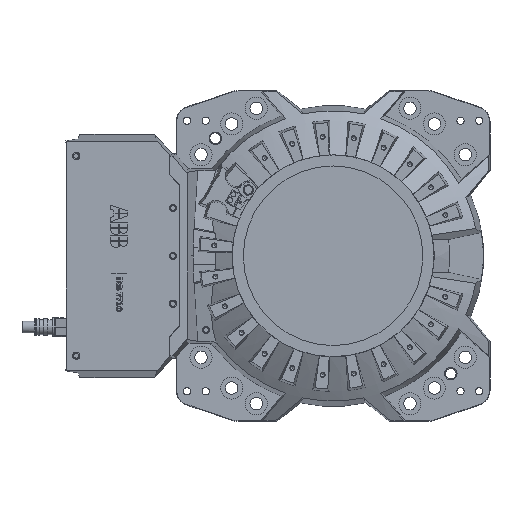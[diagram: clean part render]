
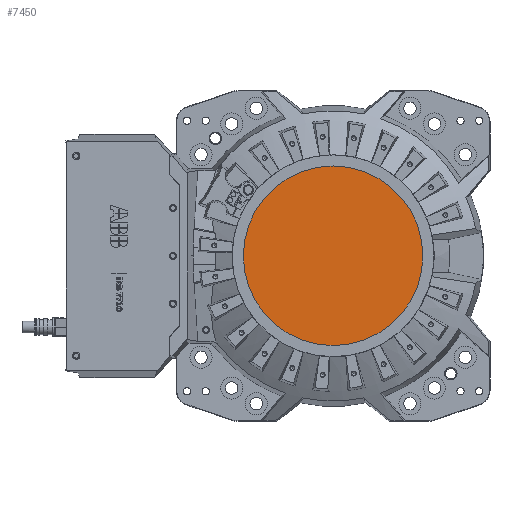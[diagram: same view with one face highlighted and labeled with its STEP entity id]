
A CAD part, top view. The second image highlights one B-rep face of the part: STEP entity #7450.
In plain terms, the highlighted planar face has unit normal (0, 0, 1).
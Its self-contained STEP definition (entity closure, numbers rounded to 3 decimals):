
#5229 = CARTESIAN_POINT ( 'NONE',  ( 0., 0., 327. ) ) ;
#7450 = ADVANCED_FACE ( 'NONE', ( #44397 ), #40944, .F. ) ;
#11976 = VERTEX_POINT ( 'NONE', #23209 ) ;
#13148 = ORIENTED_EDGE ( 'NONE', *, *, #32338, .T. ) ;
#20941 = DIRECTION ( 'NONE',  ( 0., -1., 0. ) ) ;
#23209 = CARTESIAN_POINT ( 'NONE',  ( 0., -215.75, 327. ) ) ;
#28108 = CARTESIAN_POINT ( 'NONE',  ( 215.173, 0., 327. ) ) ;
#29071 = DIRECTION ( 'NONE',  ( 0., 0., 1. ) ) ;
#32338 = EDGE_CURVE ( 'NONE', #11976, #11976, #38439, .T. ) ;
#32585 = AXIS2_PLACEMENT_3D ( 'NONE', #5229, #29071, #20941 ) ;
#38439 = CIRCLE ( 'NONE', #32585, 215.75 ) ;
#40647 = AXIS2_PLACEMENT_3D ( 'NONE', #28108, #48190, #47442 ) ;
#40944 = PLANE ( 'NONE',  #40647 ) ;
#41026 = EDGE_LOOP ( 'NONE', ( #13148 ) ) ;
#44397 = FACE_OUTER_BOUND ( 'NONE', #41026, .T. ) ;
#47442 = DIRECTION ( 'NONE',  ( 0., -1., 0. ) ) ;
#48190 = DIRECTION ( 'NONE',  ( 0., 0., -1. ) ) ;
